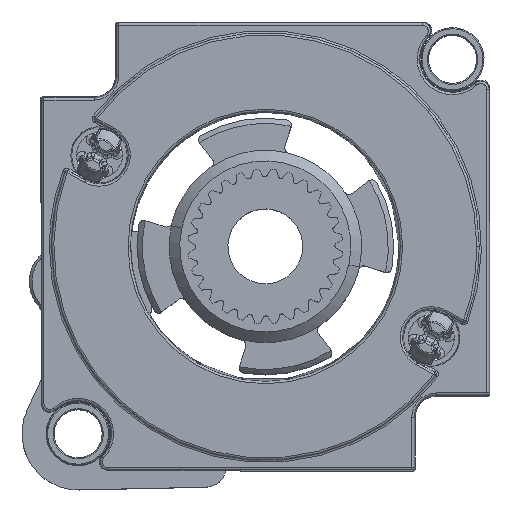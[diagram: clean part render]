
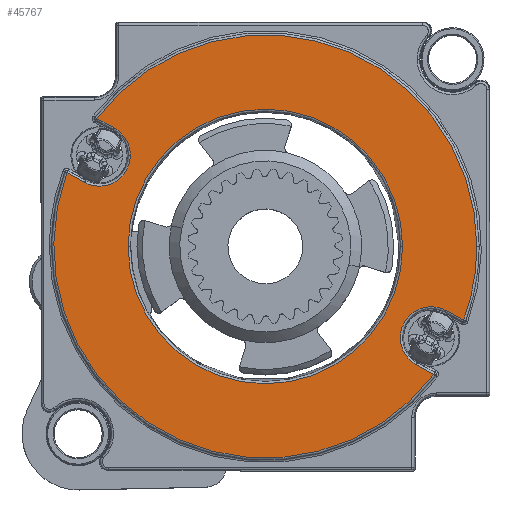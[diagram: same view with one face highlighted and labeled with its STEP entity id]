
A CAD part, top view. The second image highlights one B-rep face of the part: STEP entity #45767.
In plain terms, the highlighted planar face has unit normal (0, 0, 1).
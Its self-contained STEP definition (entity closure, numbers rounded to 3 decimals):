
#1349 = VERTEX_POINT ( 'NONE', #17079 ) ;
#1925 = ORIENTED_EDGE ( 'NONE', *, *, #21380, .T. ) ;
#1963 = AXIS2_PLACEMENT_3D ( 'NONE', #51306, #38831, #9317 ) ;
#2304 = AXIS2_PLACEMENT_3D ( 'NONE', #75699, #76463, #76730 ) ;
#3349 = VERTEX_POINT ( 'NONE', #36626 ) ;
#4239 = FACE_OUTER_BOUND ( 'NONE', #4499, .T. ) ;
#4499 = EDGE_LOOP ( 'NONE', ( #7731, #12186, #43538, #68264, #1925, #49303, #75378, #8901, #14122, #43667 ) ) ;
#6577 = VECTOR ( 'NONE', #77558, 1000. ) ;
#6717 = EDGE_CURVE ( 'NONE', #42377, #46071, #7553, .T. ) ;
#7553 = CIRCLE ( 'NONE', #1963, 19.777 ) ;
#7731 = ORIENTED_EDGE ( 'NONE', *, *, #11754, .T. ) ;
#8269 = CARTESIAN_POINT ( 'NONE',  ( 1.394, 2.536, 7.85 ) ) ;
#8471 = ORIENTED_EDGE ( 'NONE', *, *, #51430, .T. ) ;
#8551 = VERTEX_POINT ( 'NONE', #32874 ) ;
#8901 = ORIENTED_EDGE ( 'NONE', *, *, #52637, .T. ) ;
#9317 = DIRECTION ( 'NONE',  ( 1., 0., 0. ) ) ;
#9430 = AXIS2_PLACEMENT_3D ( 'NONE', #59184, #34166, #39811 ) ;
#9431 = CARTESIAN_POINT ( 'NONE',  ( 18.539, -6.889, 7.85 ) ) ;
#9644 = EDGE_CURVE ( 'NONE', #23889, #65120, #35100, .T. ) ;
#11754 = EDGE_CURVE ( 'NONE', #53939, #56842, #57901, .T. ) ;
#11971 = VERTEX_POINT ( 'NONE', #42634 ) ;
#12186 = ORIENTED_EDGE ( 'NONE', *, *, #38224, .T. ) ;
#14122 = ORIENTED_EDGE ( 'NONE', *, *, #64307, .T. ) ;
#14648 = CIRCLE ( 'NONE', #2304, 12.834 ) ;
#14760 = DIRECTION ( 'NONE',  ( 1., 0., 0. ) ) ;
#16774 = LINE ( 'NONE', #38557, #31995 ) ;
#17079 = CARTESIAN_POINT ( 'NONE',  ( -12.834, 0., 7.85 ) ) ;
#19901 = VECTOR ( 'NONE', #67574, 1000. ) ;
#20050 = CARTESIAN_POINT ( 'NONE',  ( 14.116, -11.063, 7.85 ) ) ;
#20271 = CARTESIAN_POINT ( 'NONE',  ( -15.75, 11.961, 7.85 ) ) ;
#20360 = CARTESIAN_POINT ( 'NONE',  ( 19.777, 0., 7.85 ) ) ;
#20407 = CARTESIAN_POINT ( 'NONE',  ( 0., 0., 7.85 ) ) ;
#20682 = AXIS2_PLACEMENT_3D ( 'NONE', #36239, #41889, #41618 ) ;
#21380 = EDGE_CURVE ( 'NONE', #3349, #31377, #76371, .T. ) ;
#23889 = VERTEX_POINT ( 'NONE', #38402 ) ;
#24300 = EDGE_LOOP ( 'NONE', ( #29805, #8471 ) ) ;
#26520 = DIRECTION ( 'NONE',  ( 0.876, -0.482, 0. ) ) ;
#29805 = ORIENTED_EDGE ( 'NONE', *, *, #44788, .T. ) ;
#30249 = AXIS2_PLACEMENT_3D ( 'NONE', #40078, #52304, #63655 ) ;
#30294 = EDGE_CURVE ( 'NONE', #65120, #3349, #47256, .T. ) ;
#31377 = VERTEX_POINT ( 'NONE', #9431 ) ;
#31461 = VERTEX_POINT ( 'NONE', #70938 ) ;
#31995 = VECTOR ( 'NONE', #51290, 1000. ) ;
#32874 = CARTESIAN_POINT ( 'NONE',  ( -12.616, 8.527, 7.85 ) ) ;
#33772 = DIRECTION ( 'NONE',  ( 0., 0., -1. ) ) ;
#33976 = AXIS2_PLACEMENT_3D ( 'NONE', #76210, #33772, #70107 ) ;
#34166 = DIRECTION ( 'NONE',  ( 0., 0., 1. ) ) ;
#34296 = CARTESIAN_POINT ( 'NONE',  ( -18.539, 6.889, 7.85 ) ) ;
#34552 = CIRCLE ( 'NONE', #53345, 2.894 ) ;
#35100 = LINE ( 'NONE', #36861, #19901 ) ;
#35908 = CARTESIAN_POINT ( 'NONE',  ( -16.905, 5.99, 7.85 ) ) ;
#36239 = CARTESIAN_POINT ( 'NONE',  ( 15.511, -8.527, 7.85 ) ) ;
#36626 = CARTESIAN_POINT ( 'NONE',  ( 16.905, -5.99, 7.85 ) ) ;
#36861 = CARTESIAN_POINT ( 'NONE',  ( 14.116, -11.063, 7.85 ) ) ;
#36899 = AXIS2_PLACEMENT_3D ( 'NONE', #74180, #69656, #76538 ) ;
#37453 = EDGE_CURVE ( 'NONE', #31377, #42377, #46629, .T. ) ;
#38224 = EDGE_CURVE ( 'NONE', #56842, #23889, #51358, .T. ) ;
#38402 = CARTESIAN_POINT ( 'NONE',  ( 15.75, -11.961, 7.85 ) ) ;
#38557 = CARTESIAN_POINT ( 'NONE',  ( -14.116, 11.063, 7.85 ) ) ;
#38831 = DIRECTION ( 'NONE',  ( 0., 0., 1. ) ) ;
#39811 = DIRECTION ( 'NONE',  ( 1., 0., 0. ) ) ;
#40078 = CARTESIAN_POINT ( 'NONE',  ( 0., 0., 7.85 ) ) ;
#41618 = DIRECTION ( 'NONE',  ( 1., 0., 0. ) ) ;
#41889 = DIRECTION ( 'NONE',  ( 0., 0., -1. ) ) ;
#42377 = VERTEX_POINT ( 'NONE', #20360 ) ;
#42467 = AXIS2_PLACEMENT_3D ( 'NONE', #20407, #63183, #63694 ) ;
#42634 = CARTESIAN_POINT ( 'NONE',  ( 12.834, 0., 7.85 ) ) ;
#43538 = ORIENTED_EDGE ( 'NONE', *, *, #9644, .T. ) ;
#43667 = ORIENTED_EDGE ( 'NONE', *, *, #56802, .T. ) ;
#44788 = EDGE_CURVE ( 'NONE', #11971, #1349, #14648, .T. ) ;
#45636 = DIRECTION ( 'NONE',  ( 0., 0., -1. ) ) ;
#45767 = ADVANCED_FACE ( 'NONE', ( #63962, #4239 ), #69475, .T. ) ;
#46071 = VERTEX_POINT ( 'NONE', #20271 ) ;
#46629 = CIRCLE ( 'NONE', #36899, 19.777 ) ;
#47256 = CIRCLE ( 'NONE', #20682, 2.894 ) ;
#47418 = CARTESIAN_POINT ( 'NONE',  ( -1.394, -2.536, 7.85 ) ) ;
#49303 = ORIENTED_EDGE ( 'NONE', *, *, #37453, .T. ) ;
#51219 = CARTESIAN_POINT ( 'NONE',  ( -15.511, 8.527, 7.85 ) ) ;
#51290 = DIRECTION ( 'NONE',  ( 0.876, -0.482, 0. ) ) ;
#51306 = CARTESIAN_POINT ( 'NONE',  ( 0., 0., 7.85 ) ) ;
#51358 = CIRCLE ( 'NONE', #9430, 19.777 ) ;
#51430 = EDGE_CURVE ( 'NONE', #1349, #11971, #52170, .T. ) ;
#52170 = CIRCLE ( 'NONE', #42467, 12.834 ) ;
#52304 = DIRECTION ( 'NONE',  ( 0., 0., 1. ) ) ;
#52637 = EDGE_CURVE ( 'NONE', #46071, #31461, #16774, .T. ) ;
#53345 = AXIS2_PLACEMENT_3D ( 'NONE', #51219, #45636, #14760 ) ;
#53939 = VERTEX_POINT ( 'NONE', #35908 ) ;
#56802 = EDGE_CURVE ( 'NONE', #8551, #53939, #59399, .T. ) ;
#56842 = VERTEX_POINT ( 'NONE', #34296 ) ;
#57901 = LINE ( 'NONE', #47418, #6577 ) ;
#59184 = CARTESIAN_POINT ( 'NONE',  ( 0., 0., 7.85 ) ) ;
#59399 = CIRCLE ( 'NONE', #33976, 2.894 ) ;
#63183 = DIRECTION ( 'NONE',  ( 0., 0., -1. ) ) ;
#63655 = DIRECTION ( 'NONE',  ( 1., 0., 0. ) ) ;
#63694 = DIRECTION ( 'NONE',  ( 1., 0., 0. ) ) ;
#63962 = FACE_BOUND ( 'NONE', #24300, .T. ) ;
#64307 = EDGE_CURVE ( 'NONE', #31461, #8551, #34552, .T. ) ;
#65120 = VERTEX_POINT ( 'NONE', #20050 ) ;
#67574 = DIRECTION ( 'NONE',  ( -0.876, 0.482, 0. ) ) ;
#68264 = ORIENTED_EDGE ( 'NONE', *, *, #30294, .T. ) ;
#69475 = PLANE ( 'NONE',  #30249 ) ;
#69656 = DIRECTION ( 'NONE',  ( 0., 0., 1. ) ) ;
#69761 = VECTOR ( 'NONE', #26520, 1000. ) ;
#70107 = DIRECTION ( 'NONE',  ( 1., 0., 0. ) ) ;
#70938 = CARTESIAN_POINT ( 'NONE',  ( -14.116, 11.063, 7.85 ) ) ;
#74180 = CARTESIAN_POINT ( 'NONE',  ( 0., 0., 7.85 ) ) ;
#75378 = ORIENTED_EDGE ( 'NONE', *, *, #6717, .T. ) ;
#75699 = CARTESIAN_POINT ( 'NONE',  ( 0., 0., 7.85 ) ) ;
#76210 = CARTESIAN_POINT ( 'NONE',  ( -15.511, 8.527, 7.85 ) ) ;
#76371 = LINE ( 'NONE', #8269, #69761 ) ;
#76463 = DIRECTION ( 'NONE',  ( 0., 0., -1. ) ) ;
#76538 = DIRECTION ( 'NONE',  ( 1., 0., 0. ) ) ;
#76730 = DIRECTION ( 'NONE',  ( 1., 0., 0. ) ) ;
#77558 = DIRECTION ( 'NONE',  ( -0.876, 0.482, 0. ) ) ;
